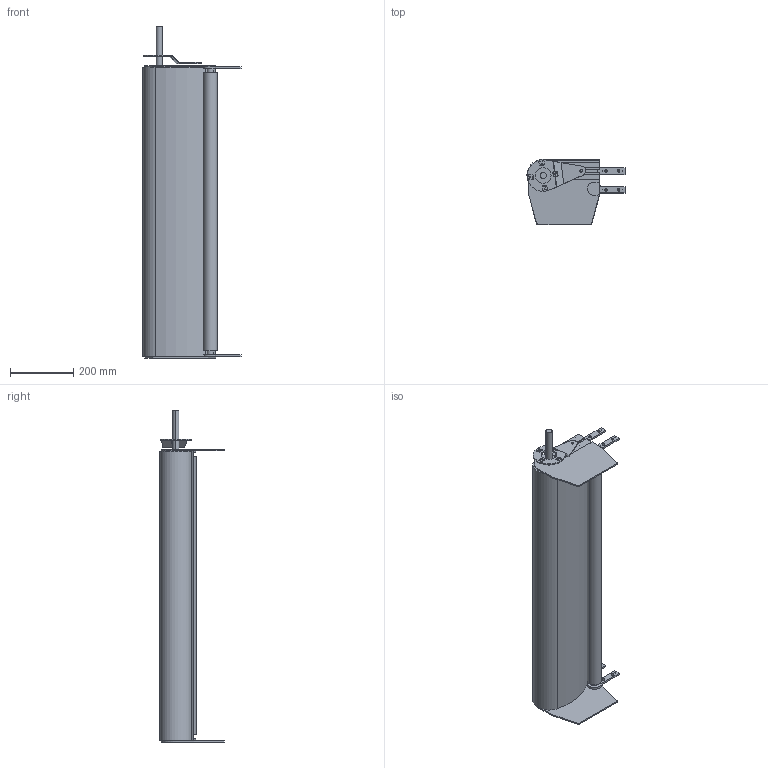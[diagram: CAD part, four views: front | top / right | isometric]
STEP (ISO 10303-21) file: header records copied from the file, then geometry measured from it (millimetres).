
FILE_DESCRIPTION (( 'STEP AP214' ), '1' );
FILE_NAME ('FS-930-MTS-100.ALU Left Drive section 20.STEP', '2017-02-08T09:31:27', ( '' ), ( '' ), 'SwSTEP 2.0', 'SolidWorks 2016', '' );
FILE_SCHEMA (( 'AUTOMOTIVE_DESIGN' ));
Length unit declared in the file: millimetre
Products named in the file (1): FS-930-MTS-100.ALU Left Drive section 20
Bounding box: 309.96 x 205 x 1050 mm (x, y, z)
Volume: 6466880.8 mm3; surface area: 1417548.5 mm2
Topology: 3 solids, 3 shells, 236 faces, 689 edges, 456 vertices
Faces by surface type: plane 131, cylinder 105
Entity records: 8039 total; most frequent: CARTESIAN_POINT 1394, ORIENTED_EDGE 1378, DIRECTION 1365, EDGE_CURVE 689, VECTOR 479, LINE 479, VERTEX_POINT 456, AXIS2_PLACEMENT_3D 443
